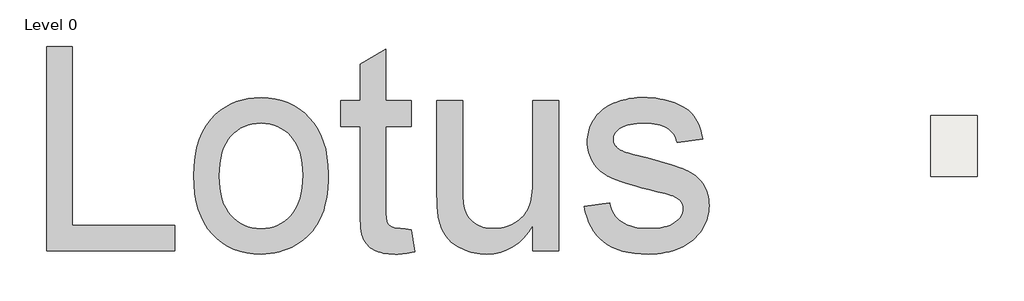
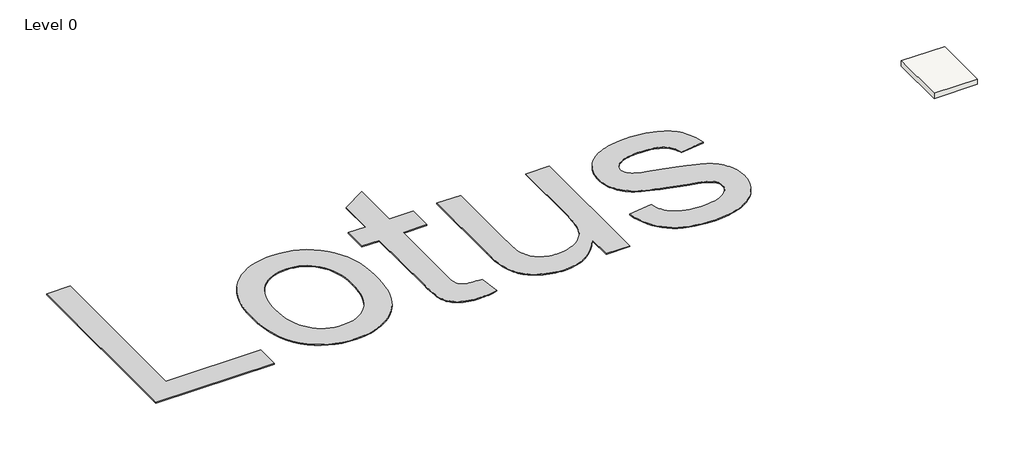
# One storey, incomplete: 1 proxy, 1 slab.
"""IFC4 building model written with IfcOpenShell, lengths in millimetres."""

from ifc_helpers import new_model, si_unit, frame, origin, origin_with_axes, place, context, project, spatial, polyline, outline, extrude, element, save

model = new_model("IFC4")

# Units and contexts
model_context = context("Model", 3, world=origin())
ifc_project = project(units=[si_unit("LENGTHUNIT", "METRE", prefix="MILLI")], contexts=[model_context])

# Site, building, storey
site = spatial("IfcSite", under=ifc_project)
building = spatial("IfcBuilding", under=site)
storey = spatial("IfcBuildingStorey", under=building, Name="Level 0", Elevation=0.0)

# Proxy
placement = place(None, origin())
element("IfcBuildingElementProxy", 1, Name="10 mm", ObjectType="10 mm", at=placement, inside=storey, context=model_context, shape_type="SweptSolid", body=[
    extrude(outline(polyline([(-148405.3353845, 70710.4267394), (-148405.3353845, 80756.0577544), (-147149.6315077, 80756.0577544), (-147149.6315077, 71966.1306163), (-142126.8160002, 71966.1306163), (-142126.8160002, 70710.4267394), (-148405.3353845, 70710.4267394)])), origin_with_axes(), (0.0, 0.0, 1.0), 50.0),
    extrude(outline(polyline([(-141185.0380925, 74399.0568777), (-141168.0618713, 74893.2833456), (-141117.1332076, 75354.477076), (-141032.2521014, 75782.638069), (-140913.4185528, 76177.7663244), (-140760.6325616, 76539.8618424), (-140573.8941281, 76868.9246228), (-140353.203252, 77164.9546658), (-140098.5599335, 77427.9519713), (-139865.4913611, 77619.365572), (-139620.0067714, 77785.2573592), (-139362.1061644, 77925.6273329), (-139091.78954, 78040.4754933), (-138809.0568983, 78129.8018403), (-138513.9082392, 78193.6063738), (-138206.3435628, 78231.8890939), (-137886.3628691, 78244.6500006), (-137531.6824726, 78229.1108184), (-137193.595087, 78182.4932719), (-136872.1007121, 78104.7973609), (-136567.1993481, 77996.0230856), (-136278.8909949, 77856.1704458), (-136007.1756525, 77685.2394417), (-135752.053321, 77483.2300732), (-135513.5240002, 77250.1423403), (-135297.6807359, 76989.655063), (-135110.6165734, 76705.4470612), (-134952.3315129, 76397.518335), (-134822.8255543, 76065.8688842), (-134722.0986976, 75710.498709), (-134650.1509428, 75331.4078092), (-134606.9822899, 74928.596185), (-134592.592739, 74502.0638364), (-134598.9540318, 74156.5230082), (-134618.0379103, 73829.9127743), (-134649.8443745, 73522.2331348), (-134694.3734243, 73233.4840897), (-134751.6250598, 72963.6656388), (-134821.599281, 72712.7777823), (-134904.2960878, 72480.8205202), (-134999.7154803, 72267.7938523), (-135107.3018034, 72069.9231563), (-135226.4994019, 71883.4338094), (-135357.3082759, 71708.3258118), (-135499.7284254, 71544.5991635), (-135653.7598504, 71392.2538643), (-135819.4025508, 71251.2899144), (-135996.6565267, 71121.7073137), (-136185.5217781, 71003.5060622), (-136382.4344481, 70898.0273964), (-136583.8306799, 70806.6125527), (-136789.7104736, 70729.2615311), (-137000.0738291, 70665.9743317), (-137214.9207464, 70616.7509543), (-137434.2512255, 70581.591399), (-137658.0652664, 70560.4956659), (-137886.3628691, 70553.4637548), (-138246.6381376, 70568.9454554), (-138589.2474062, 70615.3905573), (-138914.1906747, 70692.7990605), (-139221.4679433, 70801.1709649), (-139511.0792119, 70940.5062706), (-139783.0244805, 71110.8049775), (-140037.3037492, 71312.0670857), (-140273.9170178, 71544.2925951), (-140487.4610197, 71805.6420959), (-140672.532488, 72094.2761779), (-140829.1314227, 72410.1948413), (-140957.2578239, 72753.398086), (-141056.9116914, 73123.8859119), (-141128.0930254, 73521.6583192), (-141170.8018257, 73946.7153078), (-141185.0380925, 74399.0568777)]), holes=[polyline([(-139929.3342157, 74401.5094244), (-139920.2521289, 74086.7595527), (-139893.0058686, 73792.4347961), (-139847.5954349, 73518.5351544), (-139784.0208276, 73265.0606276), (-139702.2820468, 73032.0112157), (-139602.3790925, 72819.3869188), (-139484.3119646, 72627.1877369), (-139348.0806633, 72455.4136699), (-139198.0921082, 72303.9497547), (-139038.753219, 72172.6810282), (-138870.0639958, 72061.6074903), (-138692.0244386, 71970.7291412), (-138504.6345473, 71900.0459808), (-138307.8943219, 71849.5580091), (-138101.8037625, 71819.265226), (-137886.3628691, 71809.1676317), (-137672.0716069, 71819.3227076), (-137466.9773946, 71849.7879353), (-137271.0802322, 71900.5633148), (-137084.3801196, 71971.6488462), (-136906.877057, 72063.0445294), (-136738.5710442, 72174.7503644), (-136579.4620813, 72306.7663512), (-136429.5501682, 72459.0924898), (-136293.3188669, 72632.2269538), (-136175.2517391, 72826.6679167), (-136075.3487847, 73042.4153784), (-135993.6100039, 73279.4693391), (-135930.0353966, 73537.8297986), (-135884.6249629, 73817.496757), (-135857.3787026, 74118.4702143), (-135848.2966158, 74440.7501705), (-135857.4361842, 74745.153361), (-135884.8548891, 75030.510994), (-135930.5527307, 75296.8230696), (-135994.5297089, 75544.0895877), (-136076.7858238, 75772.3105484), (-136177.3210753, 75981.4859516), (-136296.1354634, 76171.6157973), (-136433.2289882, 76342.7000856), (-136583.8881615, 76494.1640008), (-136743.3994954, 76625.4327273), (-136911.7629897, 76736.5062651), (-137088.9786446, 76827.3846142), (-137275.0464599, 76898.0677746), (-137469.9664358, 76948.5557464), (-137673.7385722, 76978.8485294), (-137886.3628691, 76988.9461238), (-138101.8037625, 76978.8868505), (-138307.8943219, 76948.7090305), (-138504.6345473, 76898.412664), (-138692.0244386, 76827.9977509), (-138870.0639958, 76737.4642911), (-139038.753219, 76626.8122848), (-139198.0921082, 76496.0417318), (-139348.0806633, 76345.1526322), (-139484.3119646, 76173.9533808), (-139602.3790925, 75982.2523724), (-139702.2820468, 75770.0496069), (-139784.0208276, 75537.3450845), (-139847.5954349, 75284.138805), (-139893.0058686, 75010.4307685), (-139920.2521289, 74716.2209749), (-139929.3342157, 74401.5094244)])]), origin_with_axes(), (0.0, 0.0, 1.0), 50.0),
    extrude(outline(polyline([(-130511.5551391, 71757.6641523), (-130354.5921545, 70673.6385399), (-130610.116857, 70621.0620714), (-130732.7058677, 70600.4070302), (-130851.8459847, 70583.5074511), (-130967.537208, 70570.363334), (-131079.7795375, 70560.9746789), (-131188.5729734, 70555.3414858), (-131293.9175156, 70553.4637548), (-131458.9662398, 70556.7210433), (-131614.4347039, 70566.4929088), (-131760.3229076, 70582.7793513), (-131896.630851, 70605.5803708), (-132023.3585341, 70634.8959673), (-132140.505957, 70670.7261408), (-132248.0731195, 70713.0708913), (-132346.0600218, 70761.9302187), (-132435.8079002, 70816.0778499), (-132518.6579912, 70874.2875114), (-132594.6102948, 70936.5592033), (-132663.6648109, 71002.8929256), (-132725.8215397, 71073.2886782), (-132781.0804811, 71147.7464612), (-132829.441635, 71226.2662745), (-132870.9050015, 71308.8481182), (-132906.5435698, 71405.1488947), (-132937.430329, 71524.8255062), (-132963.5652791, 71667.8779529), (-132984.94842, 71834.3062347), (-133001.5797519, 72024.1103516), (-133013.4592747, 72237.2903036), (-133020.5869883, 72473.8460907), (-133022.9628929, 72733.7777129), (-133022.9628929, 76831.9831392), (-133964.7408005, 76831.9831392), (-133964.7408005, 78087.687016), (-133022.9628929, 78087.687016), (-133022.9628929, 79880.4986059), (-131767.259016, 80618.7151428), (-131767.259016, 78087.687016), (-130511.5551391, 78087.687016), (-130511.5551391, 76831.9831392), (-131767.259016, 76831.9831392), (-131767.259016, 72770.5659124), (-131763.1203436, 72541.5593704), (-131750.7043262, 72357.3118045), (-131741.3923132, 72281.9726376), (-131730.010964, 72217.8232146), (-131716.5602786, 72164.8635358), (-131701.0402569, 72123.0936009), (-131662.7958578, 72054.4989372), (-131639.8223936, 72023.0182019), (-131614.2814197, 71993.4151976), (-131555.4969425, 71939.842382), (-131486.4424264, 71893.7804906), (-131447.2974828, 71873.9493518), (-131404.0521879, 71856.7623648), (-131356.7065415, 71842.2195297), (-131305.2605437, 71830.3208464), (-131249.7141946, 71821.066315), (-131190.067494, 71814.4559354), (-131058.4730386, 71809.1676317), (-130947.0354509, 71805.9486642), (-130818.7366051, 71796.2917618), (-130673.5765012, 71780.1969246), (-130511.5551391, 71757.6641523)])), origin_with_axes(), (0.0, 0.0, 1.0), 50.0),
    extrude(outline(polyline([(-124546.961724, 70710.4267394), (-124546.961724, 71978.3933495), (-124764.778522, 71644.4254757), (-125001.2959881, 71354.9866518), (-125256.5141222, 71110.0768777), (-125530.4329245, 70909.6961535), (-125823.0523948, 70753.844479), (-126134.3725332, 70642.5218545), (-126464.3933397, 70575.7282797), (-126813.1148143, 70553.4637548), (-126969.9819963, 70557.372501), (-127124.2050265, 70569.0987396), (-127275.7839048, 70588.6424706), (-127424.7186313, 70616.003694), (-127571.0092059, 70651.1824098), (-127714.6556287, 70694.178618), (-127855.6578997, 70744.9923185), (-127994.0160188, 70803.6235115), (-128126.6451423, 70868.1561448), (-128250.4604263, 70936.6741664), (-128365.4618708, 71009.1775763), (-128471.6494759, 71085.6663745), (-128569.0232415, 71166.1405609), (-128657.5831676, 71250.6001357), (-128737.3292543, 71339.0450987), (-128808.2615015, 71431.47545), (-128872.3151218, 71528.5426472), (-128931.4253278, 71630.8981482), (-128985.5921195, 71738.5419528), (-129034.8154968, 71851.4740611), (-129079.0954599, 71969.6944731), (-129118.4320087, 72093.2031888), (-129152.8251431, 72222.0002081), (-129182.2748632, 72356.0855312), (-129199.5193318, 72454.8005332), (-129214.4645378, 72567.0045417), (-129227.1104814, 72692.6975568), (-129237.4571625, 72831.8795783), (-129251.2527373, 73150.7106407), (-129255.8512623, 73523.4977292), (-129255.8512623, 78087.687016), (-128000.1473854, 78087.687016), (-128000.1473854, 74114.5614681), (-127995.3955763, 73678.6213038), (-127981.140149, 73319.9363585), (-127970.4485785, 73169.564593), (-127957.3811035, 73038.5066322), (-127941.9377239, 72926.7624762), (-127924.1184397, 72834.3321249), (-127890.6066892, 72717.9702834), (-127848.932557, 72608.0080558), (-127799.0960429, 72504.445442), (-127741.0971471, 72407.2824422), (-127674.9358696, 72316.5190562), (-127600.6122102, 72232.155284), (-127518.1261691, 72154.1911258), (-127427.4777462, 72082.6265814), (-127329.969857, 72018.5346401), (-127226.9054168, 71962.9882909), (-127118.2844256, 71915.9875339), (-127004.1068835, 71877.5323691), (-126884.3727903, 71847.6227965), (-126759.0821463, 71826.258816), (-126628.2349512, 71813.4404278), (-126491.8312052, 71809.1676317), (-126353.1281967, 71813.5362304), (-126216.6094875, 71826.6420264), (-126082.2750777, 71848.4850199), (-125950.1249673, 71879.0652108), (-125820.1591562, 71918.382599), (-125692.3776444, 71966.4371846), (-125566.780432, 72023.2289676), (-125443.3675189, 72088.757948), (-125325.5111568, 72161.817013), (-125216.5835973, 72241.1990498), (-125116.5848404, 72326.9040583), (-125025.5148861, 72418.9320387), (-124943.3737343, 72517.2829908), (-124870.1613852, 72621.9569148), (-124805.8778386, 72732.9538105), (-124750.5230947, 72850.273678), (-124702.8133984, 72977.5570162), (-124661.464995, 73118.4443241), (-124626.4778844, 73272.9356015), (-124597.8520667, 73441.0308486), (-124575.5875418, 73622.7300653), (-124559.6843097, 73818.0332516), (-124550.1423704, 74026.9404075), (-124546.961724, 74249.451533), (-124546.961724, 78087.687016), (-123291.2578471, 78087.687016), (-123291.2578471, 70710.4267394), (-124546.961724, 70710.4267394)])), origin_with_axes(), (0.0, 0.0, 1.0), 50.0),
    extrude(outline(polyline([(-122035.5539703, 72907.9085239), (-120779.8500934, 73064.8715085), (-120747.6987399, 72917.258858), (-120703.9744319, 72778.536689), (-120648.6771695, 72648.7050015), (-120581.8069527, 72527.7637956), (-120503.3637814, 72415.7130712), (-120413.3476557, 72312.5528284), (-120311.7585756, 72218.2830671), (-120198.596541, 72132.9037874), (-120073.7082679, 72057.0281259), (-119936.940472, 71991.2692193), (-119788.2931533, 71935.6270675), (-119627.7663118, 71890.1016706), (-119455.3599476, 71854.6930286), (-119271.0740607, 71829.4011414), (-119074.908651, 71814.2260091), (-118866.8637185, 71809.1676317), (-118658.0140441, 71813.8044777), (-118463.1132288, 71827.7150156), (-118282.1612724, 71850.8992455), (-118115.158175, 71883.3571674), (-117962.1039366, 71925.0887812), (-117822.9985572, 71976.094087), (-117697.8420367, 72036.3730847), (-117586.6343753, 72105.9257744), (-117488.9157203, 72181.7247939), (-117404.2262193, 72260.7427808), (-117332.5658723, 72342.9797351), (-117273.9346794, 72428.4356569), (-117228.3326404, 72517.1105461), (-117195.7597554, 72609.0044029), (-117176.2160244, 72704.117227), (-117169.7014474, 72802.4490186), (-117176.2543454, 72889.5910663), (-117195.9130396, 72971.9813048), (-117228.6775298, 73049.6197342), (-117274.547816, 73122.5063545), (-117333.5238984, 73190.6411656), (-117405.6057768, 73254.0241677), (-117490.7934513, 73312.6553607), (-117589.0869219, 73366.5347446), (-117673.6614598, 73402.7098074), (-117780.2322752, 73441.3374169), (-117908.7993683, 73482.4175731), (-118059.3627391, 73525.9502758), (-118426.4783134, 73620.3733213), (-118881.5789983, 73724.6065532), (-119205.6600434, 73811.9976876), (-119504.6791276, 73896.3614597), (-119778.6362509, 73977.6978696), (-120027.5314133, 74056.0069172), (-120251.3646147, 74131.2886026), (-120450.1358552, 74203.5429257), (-120623.8451348, 74272.7698866), (-120772.4924535, 74338.9694852), (-120904.4892798, 74406.7785675), (-121028.2470822, 74480.8339796), (-121143.7658608, 74561.1357213), (-121251.0456156, 74647.6837928), (-121350.0863464, 74740.478194), (-121440.8880535, 74839.5189249), (-121523.4507367, 74944.8059855), (-121597.774396, 75056.3393758), (-121663.5907842, 75172.4904515), (-121720.631654, 75291.6305685), (-121768.8970053, 75413.7597267), (-121808.3868382, 75538.8779261), (-121839.1011527, 75666.9851667), (-121861.0399488, 75798.0814485), (-121874.2032264, 75932.1667716), (-121878.5909857, 76069.2411358), (-121875.0654499, 76194.3784957), (-121864.4888425, 76317.1782722), (-121846.8611636, 76437.6404651), (-121822.1824131, 76555.7650744), (-121790.452591, 76671.5521003), (-121751.6716973, 76785.0015427), (-121705.8397321, 76896.1134015), (-121652.9566953, 77004.8876769), (-121593.9806129, 77110.2130585), (-121529.8695111, 77210.9782363), (-121460.6233897, 77307.1832101), (-121386.2422488, 77398.8279801), (-121306.7260884, 77485.9125461), (-121222.0749084, 77568.4369082), (-121132.288709, 77646.4010665), (-121037.36749, 77719.8050208), (-120960.514642, 77773.3586759), (-120877.1088959, 77824.8813157), (-120787.1502517, 77874.3729404), (-120690.6387096, 77921.8335499), (-120587.5742694, 77967.2631442), (-120477.9569311, 78010.6617233), (-120361.7866948, 78052.0292872), (-120239.0635605, 78091.365836), (-120111.9335064, 78127.2918121), (-119982.5425109, 78158.427658), (-119850.890574, 78184.7733738), (-119716.9776957, 78206.3289595), (-119580.8038759, 78223.094415), (-119442.3691147, 78235.0697403), (-119301.6734121, 78242.2549356), (-119158.716768, 78244.6500006), (-118944.3871848, 78240.798736), (-118736.7254627, 78229.2449421), (-118535.7316018, 78209.9886189), (-118341.405602, 78183.0297664), (-118153.7474635, 78148.3683847), (-117972.757186, 78106.0044737), (-117798.4347698, 78055.9380334), (-117630.7802147, 77998.1690639), (-117471.8245359, 77933.8280357), (-117323.5987487, 77864.0454198), (-117186.102853, 77788.821216), (-117059.3368488, 77708.1554243), (-116943.3007362, 77622.0480448), (-116837.9945151, 77530.4990775), (-116743.4181855, 77433.5085223), (-116659.5717474, 77331.0763793), (-116584.1559384, 77221.459041), (-116514.871496, 77102.9129002), (-116451.7184201, 76975.4379568), (-116394.6967109, 76839.0342107), (-116343.8063682, 76693.7016621), (-116299.0473921, 76539.4403109), (-116260.4197827, 76376.2501571), (-116227.9235397, 76204.1312007), (-117483.6274166, 76047.1682161), (-117508.7085381, 76155.0994285), (-117543.4848829, 76256.9375954), (-117587.9564512, 76352.6827168), (-117642.1232429, 76442.3347926), (-117705.985258, 76525.8938229), (-117779.5424965, 76603.3598076), (-117862.7949584, 76674.7327467), (-117955.7426438, 76740.0126404), (-118058.5771577, 76798.3564255), (-118171.4901055, 76848.9210393), (-118294.4814871, 76891.7064818), (-118427.5513026, 76926.7127529), (-118570.6995518, 76953.9398527), (-118723.9262349, 76973.387781), (-118887.2313519, 76985.0565381), (-119060.6149026, 76988.9461238), (-119263.4098524, 76985.2289828), (-119451.1829542, 76974.0775598), (-119623.9342077, 76955.4918548), (-119781.6636132, 76929.4718679), (-119924.3711705, 76896.0175989), (-120052.0568796, 76855.129048), (-120164.7207406, 76806.8062151), (-120262.3627535, 76751.0491002), (-120346.8606493, 76690.348571), (-120420.092159, 76627.1954952), (-120482.0572825, 76561.5898727), (-120532.75602, 76493.5317036), (-120572.1883713, 76423.0209878), (-120600.3543366, 76350.0577255), (-120617.2539157, 76274.6419165), (-120622.8871088, 76196.7735608), (-120620.5495253, 76146.5346758), (-120613.5367747, 76097.5987063), (-120601.8488572, 76049.9656521), (-120585.4857726, 76003.6355133), (-120564.447521, 75958.60829), (-120538.7341024, 75914.883982), (-120508.3455168, 75872.4625894), (-120473.2817641, 75831.3441123), (-120433.2362761, 75789.9957089), (-120387.9024844, 75750.5633575), (-120337.280389, 75713.0470582), (-120281.3699899, 75677.446811), (-120220.1712872, 75643.7626158), (-120153.6842808, 75611.9944726), (-120081.9089707, 75582.1423816), (-120004.8453569, 75554.2063426), (-119868.2691662, 75515.4254489), (-119642.4815916, 75457.9438872), (-118923.2722911, 75286.8787594), (-118321.5553027, 75114.7406425), (-117813.8015073, 74958.850647), (-117595.1608069, 74886.9986949), (-117400.0109048, 74819.208773), (-117228.3518009, 74755.4808816), (-117080.1834952, 74695.8150205), (-116947.4394086, 74634.9228861), (-116822.052962, 74567.5161747), (-116704.0241552, 74493.5948863), (-116593.3529883, 74413.1590209), (-116490.0394613, 74326.2085785), (-116394.0835742, 74232.7435591), (-116305.4853271, 74132.7639627), (-116224.2447198, 74026.2697893), (-116151.5305442, 73913.1843968), (-116088.511592, 73793.4311432), (-116035.1878632, 73667.0100284), (-115991.5593578, 73533.9210524), (-115957.6260759, 73394.1642153), (-115933.3880174, 73247.739517), (-115918.8451822, 73094.6469575), (-115913.9975705, 72934.8865369), (-115919.6882451, 72776.6206369), (-115936.760269, 72620.6539994), (-115965.213642, 72466.9866243), (-116005.0483643, 72315.6185117), (-116056.2644359, 72166.5496616), (-116118.8618566, 72019.7800739), (-116192.8406266, 71875.3097487), (-116278.2007458, 71733.138686), (-116374.2907565, 71596.1218033), (-116480.459201, 71467.1140182), (-116596.7060794, 71346.1153308), (-116723.0313916, 71233.1257409), (-116859.4351376, 71128.1452486), (-117005.9173175, 71031.173854), (-117162.4779311, 70942.2115569), (-117329.1169786, 70861.2583574), (-117503.6310001, 70789.1189974), (-117683.8165357, 70726.5982188), (-117869.6735853, 70673.6960215), (-118061.202149, 70630.4124055), (-118258.4022269, 70596.7473708), (-118461.2738188, 70572.7009175), (-118669.8169248, 70558.2730455), (-118884.0315449, 70553.4637548), (-119232.6380564, 70562.7374468), (-119559.8614269, 70590.5585226), (-119865.7016564, 70636.9269825), (-120150.158745, 70701.8428262), (-120413.2326926, 70785.3060538), (-120654.9234992, 70887.3166654), (-120875.2311649, 71007.8746609), (-121074.1556895, 71146.9800404), (-121253.8813726, 71304.3262354), (-121416.5925134, 71479.6066777), (-121562.2891119, 71672.8213672), (-121690.9711681, 71883.970304), (-121802.6386821, 72113.0534881), (-121897.2916538, 72360.0709194), (-121974.9300831, 72625.0225981), (-122035.5539703, 72907.9085239)])), origin_with_axes(), (0.0, 0.0, 1.0), 50.0),
])

# Slab
element("IfcSlab", 2, ObjectType="FL_300 mm_Generic", at=placement, inside=storey, context=model_context, shape_type="SweptSolid", body=[
    extrude(outline(polyline([(-102747.8885325, 77369.9753886), (-102747.8885325, 74369.9753886), (-105047.8885325, 74369.9753886), (-105047.8885325, 77369.9753886), (-102747.8885325, 77369.9753886)])), frame((0.0, 0.0, -300.0), z_axis=(0.0, 0.0, 1.0), x_axis=(1.0, 0.0, 0.0)), (0.0, 0.0, 1.0), 300.0),
])

save(model, "model.ifc")
